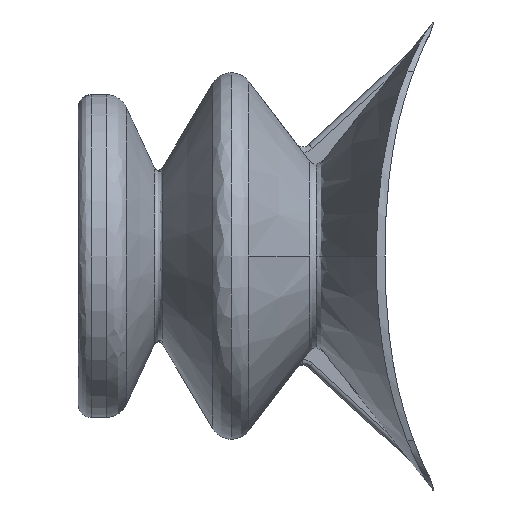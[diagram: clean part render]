
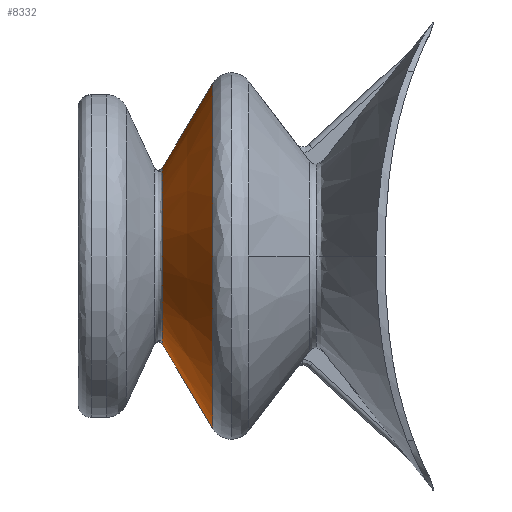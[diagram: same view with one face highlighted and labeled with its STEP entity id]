
A CAD part, left-side view. The second image highlights one B-rep face of the part: STEP entity #8332.
In plain terms, the highlighted conical face has half-angle 59.21 degrees and reference radius 31.522 mm.
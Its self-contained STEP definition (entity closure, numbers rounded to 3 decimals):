
#126 = EDGE_CURVE ( 'NONE', #4354, #12369, #3866, .T. ) ;
#373 = CONICAL_SURFACE ( 'NONE', #5567, 31.522, 1.033 ) ;
#554 = CARTESIAN_POINT ( 'NONE',  ( -34.5, -15.339, -16.04 ) ) ;
#676 = ORIENTED_EDGE ( 'NONE', *, *, #126, .T. ) ;
#1716 = VECTOR ( 'NONE', #7665, 1000. ) ;
#2192 = VERTEX_POINT ( 'NONE', #6295 ) ;
#3076 = DIRECTION ( 'NONE',  ( 0., -1., 0. ) ) ;
#3370 = CARTESIAN_POINT ( 'NONE',  ( -34.5, -15.339, 0. ) ) ;
#3399 = FACE_OUTER_BOUND ( 'NONE', #12591, .T. ) ;
#3415 = DIRECTION ( 'NONE',  ( 0., 0., -1. ) ) ;
#3522 = ORIENTED_EDGE ( 'NONE', *, *, #8245, .T. ) ;
#3634 = DIRECTION ( 'NONE',  ( 0., 0.512, -0.859 ) ) ;
#3685 = CIRCLE ( 'NONE', #4827, 31.522 ) ;
#3766 = AXIS2_PLACEMENT_3D ( 'NONE', #3370, #5342, #3415 ) ;
#3866 = CIRCLE ( 'NONE', #3766, 16.04 ) ;
#4343 = CARTESIAN_POINT ( 'NONE',  ( -34.5, -24.564, 0. ) ) ;
#4354 = VERTEX_POINT ( 'NONE', #4583 ) ;
#4583 = CARTESIAN_POINT ( 'NONE',  ( -34.5, -15.339, 16.04 ) ) ;
#4627 = DIRECTION ( 'NONE',  ( 0., -1., 0. ) ) ;
#4827 = AXIS2_PLACEMENT_3D ( 'NONE', #8025, #3076, #10989 ) ;
#5067 = LINE ( 'NONE', #7584, #1716 ) ;
#5342 = DIRECTION ( 'NONE',  ( 0., -1., 0. ) ) ;
#5567 = AXIS2_PLACEMENT_3D ( 'NONE', #4343, #4627, #11474 ) ;
#6295 = CARTESIAN_POINT ( 'NONE',  ( -34.5, -24.564, -31.522 ) ) ;
#6355 = CARTESIAN_POINT ( 'NONE',  ( -34.5, -24.564, 31.522 ) ) ;
#7584 = CARTESIAN_POINT ( 'NONE',  ( -34.5, -24.564, -31.522 ) ) ;
#7585 = ORIENTED_EDGE ( 'NONE', *, *, #10419, .F. ) ;
#7665 = DIRECTION ( 'NONE',  ( 0., -0.512, -0.859 ) ) ;
#8025 = CARTESIAN_POINT ( 'NONE',  ( -34.5, -24.564, 0. ) ) ;
#8245 = EDGE_CURVE ( 'NONE', #12369, #2192, #5067, .T. ) ;
#8332 = ADVANCED_FACE ( 'NONE', ( #3399 ), #373, .T. ) ;
#9041 = VECTOR ( 'NONE', #3634, 1000. ) ;
#9327 = VERTEX_POINT ( 'NONE', #6355 ) ;
#9462 = CARTESIAN_POINT ( 'NONE',  ( -34.5, -24.564, 31.522 ) ) ;
#9666 = EDGE_CURVE ( 'NONE', #9327, #4354, #10275, .T. ) ;
#10275 = LINE ( 'NONE', #9462, #9041 ) ;
#10419 = EDGE_CURVE ( 'NONE', #9327, #2192, #3685, .T. ) ;
#10989 = DIRECTION ( 'NONE',  ( 0., 0., -1. ) ) ;
#11474 = DIRECTION ( 'NONE',  ( 1., 0., 0. ) ) ;
#11562 = ORIENTED_EDGE ( 'NONE', *, *, #9666, .T. ) ;
#12369 = VERTEX_POINT ( 'NONE', #554 ) ;
#12591 = EDGE_LOOP ( 'NONE', ( #7585, #11562, #676, #3522 ) ) ;
